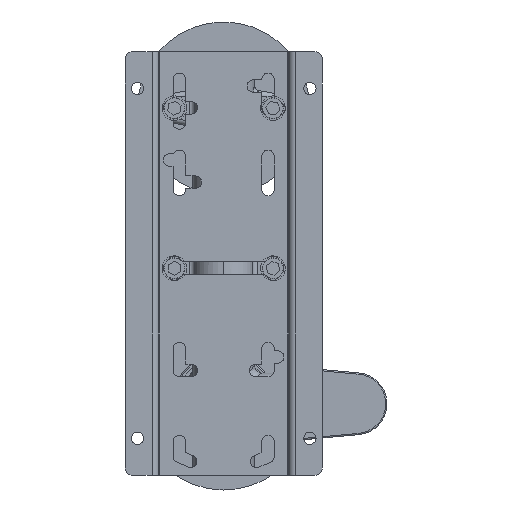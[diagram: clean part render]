
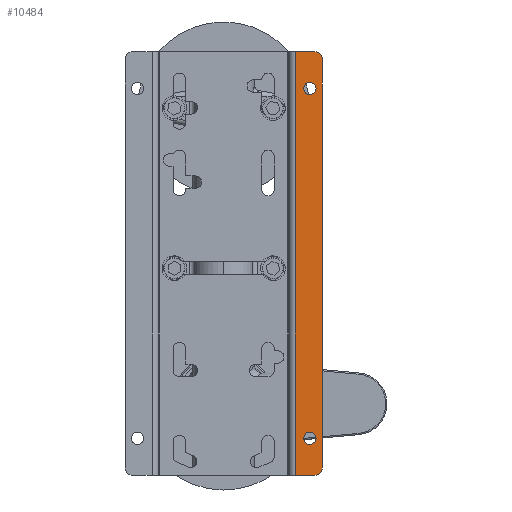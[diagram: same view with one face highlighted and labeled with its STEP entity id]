
A CAD part, left-side view. The second image highlights one B-rep face of the part: STEP entity #10484.
In plain terms, the highlighted planar face has unit normal (-1, 0, 0) as drawn and (0, -1, 0) by its records, which use the part's own axes.
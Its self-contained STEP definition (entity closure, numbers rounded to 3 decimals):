
#882 = DIRECTION ( 'NONE',  ( 0., 0., -1. ) ) ;
#1065 = LINE ( 'NONE', #20920, #28678 ) ;
#1155 = LINE ( 'NONE', #12629, #35288 ) ;
#1163 = LINE ( 'NONE', #21770, #10759 ) ;
#2078 = VERTEX_POINT ( 'NONE', #26489 ) ;
#3164 = CARTESIAN_POINT ( 'NONE',  ( 3., -11., 68. ) ) ;
#4073 = DIRECTION ( 'NONE',  ( 0., 0., -1. ) ) ;
#4376 = CARTESIAN_POINT ( 'NONE',  ( 157., -11., 63.5 ) ) ;
#4622 = CIRCLE ( 'NONE', #24717, 2.5 ) ;
#4795 = CARTESIAN_POINT ( 'NONE',  ( 15., -11., 63.5 ) ) ;
#5476 = VECTOR ( 'NONE', #32948, 1000. ) ;
#6180 = AXIS2_PLACEMENT_3D ( 'NONE', #18891, #27099, #10123 ) ;
#6468 = ORIENTED_EDGE ( 'NONE', *, *, #31780, .F. ) ;
#6632 = CIRCLE ( 'NONE', #15806, 2.5 ) ;
#6663 = AXIS2_PLACEMENT_3D ( 'NONE', #26511, #12766, #12018 ) ;
#7364 = EDGE_LOOP ( 'NONE', ( #13771, #6468 ) ) ;
#7889 = VERTEX_POINT ( 'NONE', #18664 ) ;
#8511 = EDGE_CURVE ( 'NONE', #26195, #24152, #27027, .T. ) ;
#8603 = ORIENTED_EDGE ( 'NONE', *, *, #29503, .F. ) ;
#8638 = DIRECTION ( 'NONE',  ( 0., 0., -1. ) ) ;
#8931 = VERTEX_POINT ( 'NONE', #19841 ) ;
#9099 = FACE_OUTER_BOUND ( 'NONE', #20239, .T. ) ;
#9296 = PLANE ( 'NONE',  #17333 ) ;
#9332 = CARTESIAN_POINT ( 'NONE',  ( 157., -11., 66. ) ) ;
#10123 = DIRECTION ( 'NONE',  ( 0., 0., -1. ) ) ;
#10484 = ADVANCED_FACE ( 'NONE', ( #35227, #18253, #9099 ), #9296, .T. ) ;
#10759 = VECTOR ( 'NONE', #21959, 1000. ) ;
#12018 = DIRECTION ( 'NONE',  ( 0., 0., -1. ) ) ;
#12475 = DIRECTION ( 'NONE',  ( 0., -1., 0. ) ) ;
#12629 = CARTESIAN_POINT ( 'NONE',  ( 172., -11., 71. ) ) ;
#12736 = ORIENTED_EDGE ( 'NONE', *, *, #31406, .T. ) ;
#12766 = DIRECTION ( 'NONE',  ( 0., -1., 0. ) ) ;
#13394 = ORIENTED_EDGE ( 'NONE', *, *, #8511, .T. ) ;
#13589 = ORIENTED_EDGE ( 'NONE', *, *, #24475, .F. ) ;
#13771 = ORIENTED_EDGE ( 'NONE', *, *, #35172, .F. ) ;
#13944 = CARTESIAN_POINT ( 'NONE',  ( 172., -11., 60. ) ) ;
#14398 = ORIENTED_EDGE ( 'NONE', *, *, #25193, .F. ) ;
#14811 = DIRECTION ( 'NONE',  ( 0., -1., 0. ) ) ;
#14991 = ORIENTED_EDGE ( 'NONE', *, *, #26214, .T. ) ;
#15473 = AXIS2_PLACEMENT_3D ( 'NONE', #19517, #27910, #8638 ) ;
#15806 = AXIS2_PLACEMENT_3D ( 'NONE', #9332, #21334, #32402 ) ;
#15807 = CIRCLE ( 'NONE', #6663, 2.5 ) ;
#17333 = AXIS2_PLACEMENT_3D ( 'NONE', #29888, #18067, #882 ) ;
#18067 = DIRECTION ( 'NONE',  ( 0., -1., 0. ) ) ;
#18253 = FACE_BOUND ( 'NONE', #7364, .T. ) ;
#18664 = CARTESIAN_POINT ( 'NONE',  ( 157., -11., 68.5 ) ) ;
#18741 = CARTESIAN_POINT ( 'NONE',  ( 15., -11., 66. ) ) ;
#18891 = CARTESIAN_POINT ( 'NONE',  ( 15., -11., 66. ) ) ;
#18906 = DIRECTION ( 'NONE',  ( 1., 0., 0. ) ) ;
#19208 = CARTESIAN_POINT ( 'NONE',  ( 172., -11., 59. ) ) ;
#19517 = CARTESIAN_POINT ( 'NONE',  ( 169., -11., 68. ) ) ;
#19657 = EDGE_CURVE ( 'NONE', #26195, #33394, #27224, .T. ) ;
#19841 = CARTESIAN_POINT ( 'NONE',  ( 3., -11., 71. ) ) ;
#20239 = EDGE_LOOP ( 'NONE', ( #14398, #12736, #21410, #14991, #31862, #13394 ) ) ;
#20920 = CARTESIAN_POINT ( 'NONE',  ( 0., -11., 71. ) ) ;
#21334 = DIRECTION ( 'NONE',  ( 0., -1., 0. ) ) ;
#21410 = ORIENTED_EDGE ( 'NONE', *, *, #31049, .F. ) ;
#21770 = CARTESIAN_POINT ( 'NONE',  ( 0., -11., 60. ) ) ;
#21959 = DIRECTION ( 'NONE',  ( 1., 0., 0. ) ) ;
#24030 = EDGE_LOOP ( 'NONE', ( #13589, #8603 ) ) ;
#24060 = CARTESIAN_POINT ( 'NONE',  ( 169., -11., 71. ) ) ;
#24152 = VERTEX_POINT ( 'NONE', #24060 ) ;
#24475 = EDGE_CURVE ( 'NONE', #7889, #29624, #6632, .T. ) ;
#24717 = AXIS2_PLACEMENT_3D ( 'NONE', #18741, #12475, #4073 ) ;
#25193 = EDGE_CURVE ( 'NONE', #8931, #24152, #1155, .T. ) ;
#26195 = VERTEX_POINT ( 'NONE', #27304 ) ;
#26214 = EDGE_CURVE ( 'NONE', #2078, #33394, #1163, .T. ) ;
#26340 = CARTESIAN_POINT ( 'NONE',  ( 0., -11., 68. ) ) ;
#26489 = CARTESIAN_POINT ( 'NONE',  ( 0., -11., 60. ) ) ;
#26511 = CARTESIAN_POINT ( 'NONE',  ( 157., -11., 66. ) ) ;
#26566 = VERTEX_POINT ( 'NONE', #26340 ) ;
#27027 = CIRCLE ( 'NONE', #15473, 3. ) ;
#27099 = DIRECTION ( 'NONE',  ( 0., -1., 0. ) ) ;
#27211 = DIRECTION ( 'NONE',  ( 0., 0., 1. ) ) ;
#27224 = LINE ( 'NONE', #19208, #5476 ) ;
#27304 = CARTESIAN_POINT ( 'NONE',  ( 172., -11., 68. ) ) ;
#27910 = DIRECTION ( 'NONE',  ( 0., -1., 0. ) ) ;
#28678 = VECTOR ( 'NONE', #27211, 1000. ) ;
#29503 = EDGE_CURVE ( 'NONE', #29624, #7889, #15807, .T. ) ;
#29624 = VERTEX_POINT ( 'NONE', #4376 ) ;
#29888 = CARTESIAN_POINT ( 'NONE',  ( 0., -11., 0. ) ) ;
#30172 = DIRECTION ( 'NONE',  ( 0., 0., -1. ) ) ;
#30550 = VERTEX_POINT ( 'NONE', #4795 ) ;
#31049 = EDGE_CURVE ( 'NONE', #2078, #26566, #1065, .T. ) ;
#31406 = EDGE_CURVE ( 'NONE', #8931, #26566, #36600, .T. ) ;
#31780 = EDGE_CURVE ( 'NONE', #30550, #35539, #35399, .T. ) ;
#31862 = ORIENTED_EDGE ( 'NONE', *, *, #19657, .F. ) ;
#32402 = DIRECTION ( 'NONE',  ( 0., 0., -1. ) ) ;
#32948 = DIRECTION ( 'NONE',  ( 0., 0., -1. ) ) ;
#33394 = VERTEX_POINT ( 'NONE', #13944 ) ;
#34156 = CARTESIAN_POINT ( 'NONE',  ( 15., -11., 68.5 ) ) ;
#35172 = EDGE_CURVE ( 'NONE', #35539, #30550, #4622, .T. ) ;
#35227 = FACE_BOUND ( 'NONE', #24030, .T. ) ;
#35288 = VECTOR ( 'NONE', #18906, 1000. ) ;
#35399 = CIRCLE ( 'NONE', #6180, 2.5 ) ;
#35539 = VERTEX_POINT ( 'NONE', #34156 ) ;
#35993 = AXIS2_PLACEMENT_3D ( 'NONE', #3164, #14811, #30172 ) ;
#36600 = CIRCLE ( 'NONE', #35993, 3. ) ;
